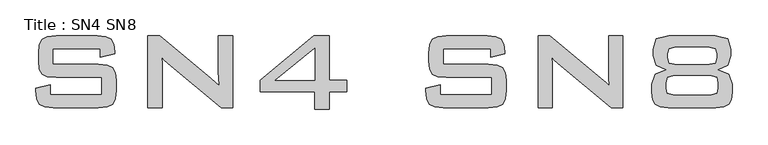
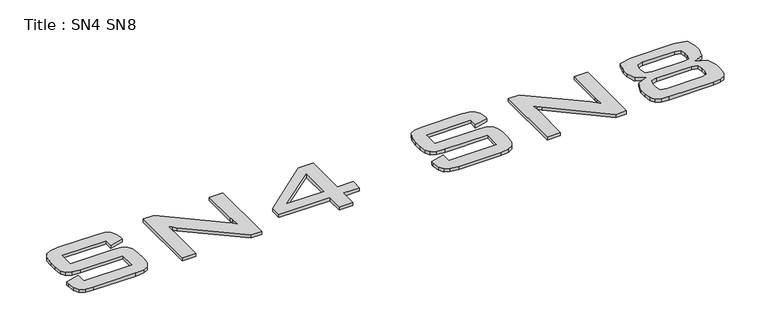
"""IFC4 building model written with IfcOpenShell, lengths in millimetres: flow terminal geometry, Title : SN4 SN8."""

import ifcopenshell
import ifcopenshell.guid

model = None  # the IFC model being written
_history = None  # IfcOwnerHistory: only IFC2X3 demands one
_inside = {}  # id of a spatial element -> (the spatial element, [elements in it])
_under = {}  # id of a project, library or spatial element -> (it, [spatial elements below it])
_declared = {}  # id of a project -> (the project, [libraries it declares])
_typed = {}  # id of a type object -> (the type object, [elements of that type])
_made_of = {}  # id of a material, layer set ... -> (it, [elements and type objects made of it])


def new_model(schema):
    """Start an empty IFC model of exactly this schema.

    Asked for "IFC4X3", IfcOpenShell would pick the latest addendum, in which some entities
    have other attributes; the version numbers below select the first issue.
    IFC2X3 requires an IfcOwnerHistory on every rooted entity: one is made here for all.
    """
    global model, _history
    if schema == "IFC4X3":
        model = ifcopenshell.file(schema_version=(4, 3, 0, 0))
    else:
        model = ifcopenshell.file(schema=schema)
    _inside.clear()
    _under.clear()
    _declared.clear()
    _typed.clear()
    _made_of.clear()
    _history = None
    if model.schema == "IFC2X3":
        org = make("IfcOrganization", Name="unknown")
        user = make(
            "IfcPersonAndOrganization",
            ThePerson=make("IfcPerson", FamilyName="unknown"),
            TheOrganization=org,
        )
        app = make(
            "IfcApplication",
            ApplicationDeveloper=org,
            Version="unknown",
            ApplicationFullName="unknown",
            ApplicationIdentifier="unknown",
        )
        _history = make(
            "IfcOwnerHistory",
            OwningUser=user,
            OwningApplication=app,
            ChangeAction="ADDED",
            CreationDate=0,
        )
    return model


def make(cls, **values):
    """One entity of the class cls with the attributes given. An attribute that is None is left unset."""
    return model.create_entity(
        cls, **{name: value for name, value in values.items() if value is not None}
    )


def rooted(cls, **values):
    """An entity with a GlobalId (a new one), such as an element, a storey or a relation."""
    return make(cls, GlobalId=ifcopenshell.guid.new(), OwnerHistory=_history, **values)


def si_unit(unit_type, name, prefix=None):
    """IfcSIUnit, for example si_unit("LENGTHUNIT", "METRE", prefix="MILLI")."""
    return make("IfcSIUnit", UnitType=unit_type, Prefix=prefix, Name=name)


def assignment(units):
    """IfcUnitAssignment: the units of a project."""
    return None if units is None else make("IfcUnitAssignment", Units=units)


def point(xyz):
    """IfcCartesianPoint."""
    return None if xyz is None else make("IfcCartesianPoint", Coordinates=xyz)


def direction(xyz):
    """IfcDirection."""
    return None if xyz is None else make("IfcDirection", DirectionRatios=xyz)


def frame(location, z_axis=None, x_axis=None):
    """IfcAxis2Placement3D, a coordinate frame: its origin and axes. An axis left out is left unset."""
    return make(
        "IfcAxis2Placement3D",
        Location=point(location),
        Axis=direction(z_axis),
        RefDirection=direction(x_axis),
    )


def origin():
    """The frame at (0, 0, 0) with its axes left unset."""
    return frame((0.0, 0.0, 0.0))


def origin_with_axes():
    """The frame at (0, 0, 0) with the z axis (0, 0, 1) and the x axis (1, 0, 0) written out."""
    return frame((0.0, 0.0, 0.0), z_axis=(0.0, 0.0, 1.0), x_axis=(1.0, 0.0, 0.0))


def place(relative_to, where):
    """IfcLocalPlacement: puts the frame where relative to a parent placement (None: the world)."""
    return make(
        "IfcLocalPlacement", PlacementRelTo=relative_to, RelativePlacement=where
    )


def context(
    kind, dimensions, precision=None, world=None, true_north=None, identifier=None
):
    """IfcGeometricRepresentationContext, for example the 3D "Model" context."""
    return make(
        "IfcGeometricRepresentationContext",
        ContextIdentifier=identifier,
        ContextType=kind,
        CoordinateSpaceDimension=dimensions,
        Precision=precision,
        WorldCoordinateSystem=world,
        TrueNorth=true_north,
    )


def project(units=None, contexts=None):
    """IfcProject with its units and contexts."""
    return rooted(
        "IfcProject",
        Name="project",
        RepresentationContexts=contexts,
        UnitsInContext=assignment(units),
    )


def spatial(cls, under=None, at=None, **own):
    """A site, building, storey or space (cls), placed at a placement, below another one or the project."""
    s = rooted(cls, ObjectPlacement=at, **own)
    if under is not None:
        _under.setdefault(under.id(), (under, []))[1].append(s)
    return s


def polyline(points):
    """IfcPolyline through the points."""
    return make("IfcPolyline", Points=[point(p) for p in points])


def outline(outer, holes=None, kind="AREA"):
    """IfcArbitraryClosedProfileDef: a profile drawn as a closed curve; with holes, ...WithVoids."""
    if holes is None:
        return make("IfcArbitraryClosedProfileDef", ProfileType=kind, OuterCurve=outer)
    return make(
        "IfcArbitraryProfileDefWithVoids",
        ProfileType=kind,
        OuterCurve=outer,
        InnerCurves=holes,
    )


def extrude(swept, where, along, depth):
    """IfcExtrudedAreaSolid: the profile swept, set in the frame where, extruded along a direction by depth."""
    return make(
        "IfcExtrudedAreaSolid",
        SweptArea=swept,
        Position=where,
        ExtrudedDirection=direction(along),
        Depth=depth,
    )


def shape(context_of_items, identifier, shape_type, items):
    """IfcShapeRepresentation: the items that make up one representation, for example the "Body"."""
    return make(
        "IfcShapeRepresentation",
        ContextOfItems=context_of_items,
        RepresentationIdentifier=identifier,
        RepresentationType=shape_type,
        Items=items,
    )


def source(mapping_origin, context_of_items, identifier, shape_type, items):
    """IfcRepresentationMap: a shape defined once, which mapped items show again and again."""
    return make(
        "IfcRepresentationMap",
        MappingOrigin=mapping_origin,
        MappedRepresentation=shape(context_of_items, identifier, shape_type, items),
    )


def transform(
    local_origin,
    x_axis=None,
    y_axis=None,
    z_axis=None,
    scale=None,
    scale2=None,
    scale3=None,
    uniform=True,
):
    """IfcCartesianTransformationOperator3D, or its non-uniform kind. x_axis, y_axis, z_axis: its Axis1, 2, 3."""
    if uniform:
        return make(
            "IfcCartesianTransformationOperator3D",
            Axis1=direction(x_axis),
            Axis2=direction(y_axis),
            LocalOrigin=point(local_origin),
            Scale=scale,
            Axis3=direction(z_axis),
        )
    return make(
        "IfcCartesianTransformationOperator3DnonUniform",
        Axis1=direction(x_axis),
        Axis2=direction(y_axis),
        LocalOrigin=point(local_origin),
        Scale=scale,
        Axis3=direction(z_axis),
        Scale2=scale2,
        Scale3=scale3,
    )


def mapped(mapping_source, mapping_target):
    """IfcMappedItem: shows the shape of a source again, moved by a transform."""
    return make(
        "IfcMappedItem", MappingSource=mapping_source, MappingTarget=mapping_target
    )


def made_of(thing, what):
    """Note that an element or type object is made of a material, layer set ...; save() writes the relation."""
    if what is not None:
        _made_of.setdefault(what.id(), (what, []))[1].append(thing)
    return thing


def element(
    cls,
    number,
    at=None,
    inside=None,
    cuts=None,
    type_object=None,
    material=None,
    context=None,
    identifier="Body",
    shape_type=None,
    held_by="IfcProductDefinitionShape",
    body=None,
    shapes=None,
    **own,
):
    """One element of the class cls, such as IfcWall. Its Tag is "e" and its number.

    at: its placement. inside: the storey or other place that contains it. cuts: it is an
    opening in that element (IfcRelVoidsElement). A single representation is given by context,
    identifier, shape_type and body (its items); several are given by shapes. held_by: the class
    of the entity that holds the representations. save() writes the other relations.
    """
    e = rooted(cls, Tag="e%d" % number, ObjectPlacement=at, **own)
    if body is not None:
        shapes = [shape(context, identifier, shape_type, body)]
    if shapes is not None:
        e.Representation = make(held_by, Representations=shapes)
    if inside is not None:
        _inside.setdefault(inside.id(), (inside, []))[1].append(e)
    if cuts is not None:
        rooted(
            "IfcRelVoidsElement", RelatingBuildingElement=cuts, RelatedOpeningElement=e
        )
    if type_object is not None:
        _typed.setdefault(type_object.id(), (type_object, []))[1].append(e)
    return made_of(e, material)


def aggregate(whole, parts):
    """IfcRelAggregates: a whole, such as a stair, and the parts it consists of."""
    return rooted("IfcRelAggregates", RelatingObject=whole, RelatedObjects=parts)


def save(model, path):
    """Write the relations noted so far, then the file.

    IfcRelAggregates (storeys below a building ...), IfcRelContainedInSpatialStructure (elements
    in a storey), IfcRelDefinesByType, IfcRelAssociatesMaterial and IfcRelDeclares: one each for
    every whole, place, type object, material and project.
    """
    for whole, parts in _under.values():
        aggregate(whole, parts)
    for where, things in _inside.values():
        rooted(
            "IfcRelContainedInSpatialStructure",
            RelatedElements=things,
            RelatingStructure=where,
        )
    for kind, things in _typed.values():
        rooted("IfcRelDefinesByType", RelatedObjects=things, RelatingType=kind)
    for what, things in _made_of.values():
        rooted("IfcRelAssociatesMaterial", RelatedObjects=things, RelatingMaterial=what)
    for by, libraries in _declared.values():
        rooted("IfcRelDeclares", RelatingContext=by, RelatedDefinitions=libraries)
    model.write(path)


def title_sn4_sn8_3dfa2615(model_context):
    return source(origin(), model_context, "Body", "SweptSolid", [
        extrude(outline(polyline([(-394.5590746, 32.7464044), (-461.1598392, 32.7464044), (-461.1598392, 10.5461496), (-397.7440544, 10.5461496), (-385.2485274, 9.375433), (-377.593539, 5.8632833), (-373.6674996, -0.8259625), (-372.3588198, -11.5279675), (-372.3588198, -26.0653503), (-373.6674996, -37.6700289), (-377.593539, -44.9229531), (-385.2485274, -48.7307383), (-397.7440544, -50.0), (-460.592219, -50.0), (-472.7763432, -48.7307383), (-480.2539504, -44.9229531), (-484.0972118, -37.6700289), (-485.378299, -26.0653503), (-485.378299, -22.7857672), (-465.1962491, -17.7087202), (-465.1962491, -31.8361551), (-392.5408697, -31.8361551), (-392.5408697, -7.6176953), (-456.6504124, -7.6176953), (-468.8030022, -6.4312115), (-476.2490749, -2.8717601), (-480.0686855, 3.9199726), (-481.341889, 14.8033007), (-481.341889, 26.1872382), (-480.0686855, 38.1860975), (-476.2490749, 45.6755301), (-468.8030022, 49.6015695), (-456.6504124, 50.9102493), (-398.8792947, 50.9102493), (-387.1051183, 49.652813), (-379.6590456, 45.880504), (-375.69753, 38.8995645), (-374.3770248, 28.0162365), (-374.3770248, 25.7772903), (-394.5590746, 20.6371745), (-394.5590746, 32.7464044)])), origin_with_axes(), (0.0, 0.0, 1.0), 5.0),
        extrude(outline(polyline([(-327.9583101, -50.0), (-327.9583101, 50.9102493), (-311.7180669, 50.9102493), (-239.8825832, -8.5637289), (-233.323417, -14.1453271), (-228.1517667, -19.5377185), (-228.8770591, -7.5230919), (-229.0662658, -2.0676316), (-229.0662658, 50.9102493), (-208.884216, 50.9102493), (-208.884216, -50.0), (-225.1244592, -50.0), (-300.1133882, 12.3436134), (-304.8908578, 16.6480662), (-308.6907594, 20.5425711), (-307.9970014, 11.7286915), (-307.7762603, 4.5230691), (-307.7762603, -50.0), (-327.9583101, -50.0)])), origin_with_axes(), (0.0, 0.0, 1.0), 5.0),
        extrude(outline(polyline([(-93.8465318, -52.018205), (-93.8465318, -27.7997452), (-170.5383213, -27.7997452), (-170.5383213, -11.6541053), (-95.6124612, 50.9102493), (-73.664482, 50.9102493), (-73.664482, -11.6541053), (-49.4460221, -11.6541053), (-49.4460221, -27.7997452), (-73.664482, -27.7997452), (-73.664482, -52.018205), (-93.8465318, -52.018205)]), holes=[polyline([(-93.8465318, -11.6541053), (-93.8465318, 33.2509556), (-149.1894967, -11.6541053), (-93.8465318, -11.6541053)])]), origin_with_axes(), (0.0, 0.0, 1.0), 5.0),
        extrude(outline(polyline([(152.3744764, 32.7464044), (85.7737119, 32.7464044), (85.7737119, 10.5461496), (149.1894967, 10.5461496), (161.6850236, 9.375433), (169.3400121, 5.8632833), (173.2660514, -0.8259625), (174.5747312, -11.5279675), (174.5747312, -26.0653503), (173.2660514, -37.6700289), (169.3400121, -44.9229531), (161.6850236, -48.7307383), (149.1894967, -50.0), (86.341332, -50.0), (74.1572078, -48.7307383), (66.6796006, -44.9229531), (62.8363392, -37.6700289), (61.5552521, -26.0653503), (61.5552521, -22.7857672), (81.7373019, -17.7087202), (81.7373019, -31.8361551), (154.3926814, -31.8361551), (154.3926814, -7.6176953), (90.2831386, -7.6176953), (78.1305489, -6.4312115), (70.6844762, -2.8717601), (66.8648656, 3.9199726), (65.591662, 14.8033007), (65.591662, 26.1872382), (66.8648656, 38.1860975), (70.6844762, 45.6755301), (78.1305489, 49.6015695), (90.2831386, 50.9102493), (148.0542563, 50.9102493), (159.8284327, 49.652813), (167.2745054, 45.880504), (171.236021, 38.8995645), (172.5565262, 28.0162365), (172.5565262, 25.7772903), (152.3744764, 20.6371745), (152.3744764, 32.7464044)])), origin_with_axes(), (0.0, 0.0, 1.0), 5.0),
        extrude(outline(polyline([(218.9752409, -50.0), (218.9752409, 50.9102493), (235.2154842, 50.9102493), (307.0509678, -8.5637289), (313.6101341, -14.1453271), (318.7817843, -19.5377185), (318.0564919, -7.5230919), (317.8672852, -2.0676316), (317.8672852, 50.9102493), (338.049335, 50.9102493), (338.049335, -50.0), (321.8090918, -50.0), (246.8201628, 12.3436134), (242.0426932, 16.6480662), (238.2427916, 20.5425711), (238.9365496, 11.7286915), (239.1572908, 4.5230691), (239.1572908, -50.0), (218.9752409, -50.0)])), origin_with_axes(), (0.0, 0.0, 1.0), 5.0),
        extrude(outline(polyline([(467.3721264, 50.9102493), (484.9052822, 46.921141), (489.4147089, 32.1157153), (489.4147089, 22.6553795), (485.3467645, 9.3163059), (471.0616574, 2.8517431), (486.4977721, -3.2974753), (491.4329139, -17.3933757), (491.4329139, -28.2412275), (490.1597104, -38.687015), (486.3400998, -45.3013665), (479.2487897, -48.8253416), (468.1604877, -50.0), (401.685861, -50.0), (390.597559, -48.837167), (383.5062489, -45.3486682), (379.6866383, -38.7461421), (378.4134348, -28.2412275), (378.4134348, -17.3933757), (383.3958783, -3.3447769), (398.7846913, 2.8517431), (384.5468858, 9.4109093), (380.4316397, 22.6553795), (380.4316397, 32.1157153), (384.9410665, 46.921141), (402.4742223, 50.9102493), (467.3721264, 50.9102493)]), holes=[polyline([(459.2993064, 34.7646094), (410.7677834, 34.7646094), (402.6791963, 32.8410078), (400.6136896, 25.2096702), (400.6136896, 20.0064854), (402.6791963, 12.4697512), (410.7677834, 10.5461496), (459.2993064, 10.5461496), (467.2144541, 12.4224495), (469.2326591, 20.0064854), (469.2326591, 25.2096702), (467.2144541, 32.8883094), (459.2993064, 34.7646094)]), polyline([(461.5382526, -5.5994903), (408.3080961, -5.5994903), (400.5348535, -7.460023), (398.5954846, -15.0598262), (398.5954846, -22.565026), (400.4402501, -30.0229241), (408.3080961, -31.8361551), (461.5382526, -31.8361551), (469.3587969, -30.0229241), (471.2508641, -22.565026), (471.2508641, -15.0598262), (469.3114952, -7.460023), (461.5382526, -5.5994903)])]), origin_with_axes(), (0.0, 0.0, 1.0), 5.0),
    ])


if __name__ == "__main__":
    model = new_model("IFC4")
    model_context = context("Model", 3, world=origin())
    ifc_project = project(units=[si_unit("LENGTHUNIT", "METRE", prefix="MILLI")], contexts=[model_context])
    site = spatial("IfcSite", under=ifc_project)
    building = spatial("IfcBuilding", under=site)
    placement = place(None, origin())
    title_sn4_sn8_shape = title_sn4_sn8_3dfa2615(model_context)
    element("IfcFlowTerminal", 1, ObjectType="Title : SN4 SN8", at=placement, inside=building, context=model_context, shape_type="MappedRepresentation", body=[
        mapped(title_sn4_sn8_shape, transform((0.0, 0.0, 0.0), x_axis=(1.0, 0.0, 0.0), y_axis=(0.0, 1.0, 0.0), z_axis=(0.0, 0.0, 1.0))),
    ])
    save(model, "model.ifc")
